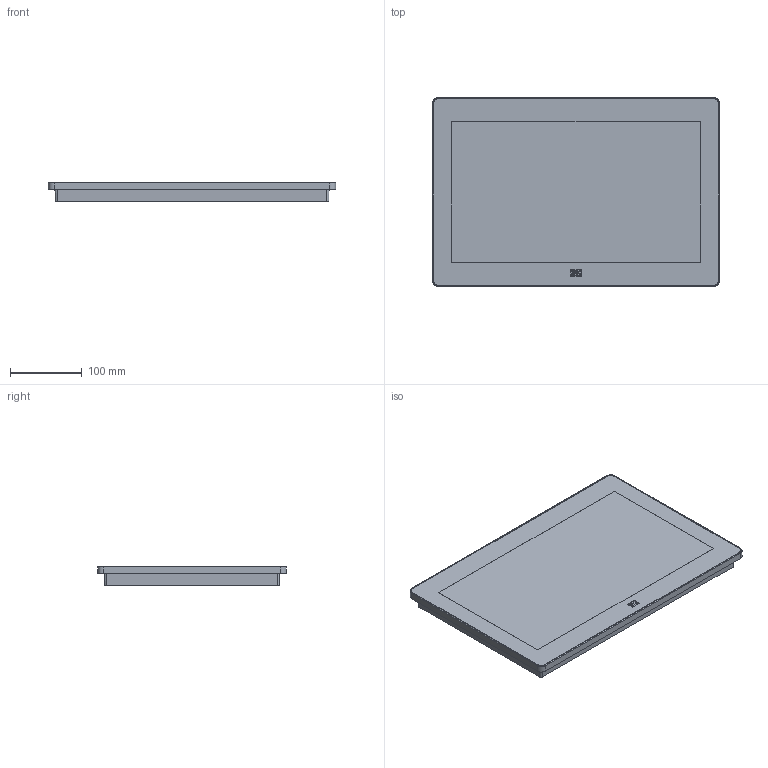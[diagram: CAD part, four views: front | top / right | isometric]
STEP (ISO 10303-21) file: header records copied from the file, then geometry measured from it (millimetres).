
FILE_DESCRIPTION (( 'STEP AP203' ), '1' );
FILE_NAME ('STP - cMT3161X cMT2166X.STEP', '2022-07-18T19:00:45', ( '' ), ( '' ), 'SwSTEP 2.0', 'SolidWorks 2018', '' );
FILE_SCHEMA (( 'CONFIG_CONTROL_DESIGN' ));
Length unit declared in the file: millimetre
Products named in the file (1): STP - cMT3161X cMT2166X
Bounding box: 400 x 263 x 27 mm (x, y, z)
Volume: 2593116.7 mm3; surface area: 244534.3 mm2
Topology: 1 solids, 1 shells, 106 faces, 258 edges, 166 vertices
Faces by surface type: plane 68, cylinder 24, cone 10, torus 4
Entity records: 3149 total; most frequent: CARTESIAN_POINT 555, DIRECTION 518, ORIENTED_EDGE 516, EDGE_CURVE 258, VECTOR 196, LINE 196, VERTEX_POINT 166, AXIS2_PLACEMENT_3D 161
